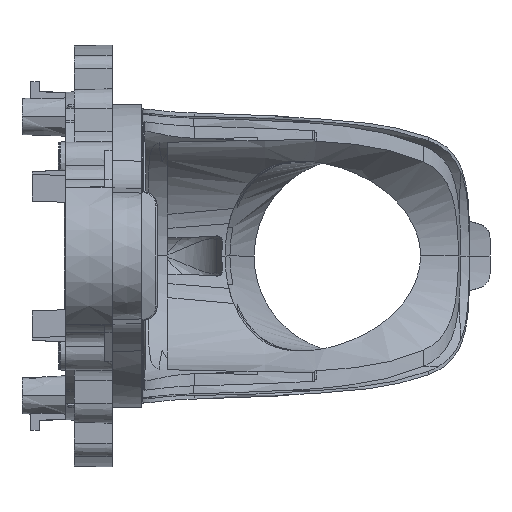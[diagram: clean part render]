
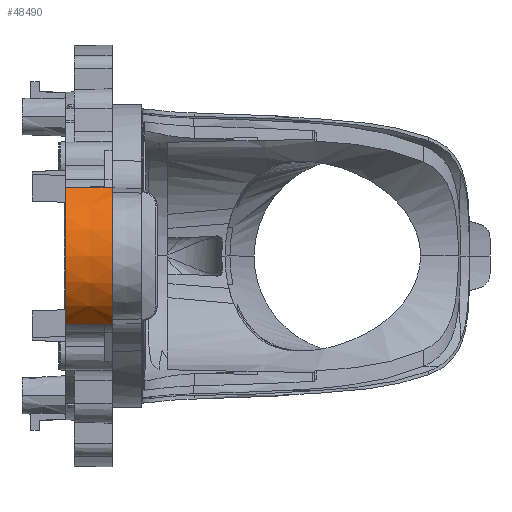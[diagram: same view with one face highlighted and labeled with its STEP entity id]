
A CAD part, front view. The second image highlights one B-rep face of the part: STEP entity #48490.
In plain terms, the highlighted conical face has half-angle 1 degrees and reference radius 28.5 mm.
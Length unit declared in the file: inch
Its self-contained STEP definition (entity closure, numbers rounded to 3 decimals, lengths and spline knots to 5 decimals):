
#1418 = CARTESIAN_POINT ( 'NONE',  ( -0.62992, -2.8937, 0. ) ) ;
#2194 = DIRECTION ( 'NONE',  ( 0., 0., -1. ) ) ;
#3478 = CARTESIAN_POINT ( 'NONE',  ( -0.41995, -3.51278, 0.927 ) ) ;
#7336 = EDGE_CURVE ( 'NONE', #73372, #30540, #14718, .T. ) ;
#8243 = DIRECTION ( 'NONE',  ( 0., 0., 1. ) ) ;
#8902 = CONICAL_SURFACE ( 'NONE', #65996, 1.12205, 0.017 ) ;
#9552 = CARTESIAN_POINT ( 'NONE',  ( 0., -2.8937, 0. ) ) ;
#10844 = VERTEX_POINT ( 'NONE', #46077 ) ;
#12508 = EDGE_CURVE ( 'NONE', #10844, #43074, #36996, .T. ) ;
#14718 = CIRCLE ( 'NONE', #58389, 1.11105 ) ;
#14889 = CARTESIAN_POINT ( 'NONE',  ( 0., -3.5177, 0.93253 ) ) ;
#19472 = CARTESIAN_POINT ( 'NONE',  ( -0.20997, -3.51524, 0.92977 ) ) ;
#19545 = CARTESIAN_POINT ( 'NONE',  ( 0., -3.5177, -0.93253 ) ) ;
#20919 = ORIENTED_EDGE ( 'NONE', *, *, #12508, .F. ) ;
#21711 = CARTESIAN_POINT ( 'NONE',  ( 0., -3.5177, -0.93253 ) ) ;
#22086 = CARTESIAN_POINT ( 'NONE',  ( -0.62992, -3.51033, -0.92423 ) ) ;
#24514 = B_SPLINE_CURVE_WITH_KNOTS ( 'NONE', 3,
 ( #49431, #3478, #19472, #14889 ),
 .UNSPECIFIED., .F., .F.,
 ( 4, 4 ),
 ( 0., 0.016 ),
 .UNSPECIFIED. ) ;
#27345 = ORIENTED_EDGE ( 'NONE', *, *, #35111, .T. ) ;
#30540 = VERTEX_POINT ( 'NONE', #64262 ) ;
#33847 = CARTESIAN_POINT ( 'NONE',  ( -0.20997, -3.51524, -0.92977 ) ) ;
#35111 = EDGE_CURVE ( 'NONE', #30540, #43074, #50305, .T. ) ;
#36996 = CIRCLE ( 'NONE', #73544, 1.12205 ) ;
#43074 = VERTEX_POINT ( 'NONE', #19545 ) ;
#43728 = DIRECTION ( 'NONE',  ( 0., 0., -1. ) ) ;
#45617 = CARTESIAN_POINT ( 'NONE',  ( -0.41995, -3.51278, -0.927 ) ) ;
#45851 = ORIENTED_EDGE ( 'NONE', *, *, #7336, .T. ) ;
#46077 = CARTESIAN_POINT ( 'NONE',  ( 0., -3.5177, 0.93253 ) ) ;
#48490 = ADVANCED_FACE ( 'NONE', ( #65671 ), #8902, .T. ) ;
#49431 = CARTESIAN_POINT ( 'NONE',  ( -0.62992, -3.51033, 0.92423 ) ) ;
#50305 = B_SPLINE_CURVE_WITH_KNOTS ( 'NONE', 3,
 ( #22086, #45617, #33847, #21711 ),
 .UNSPECIFIED., .F., .F.,
 ( 4, 4 ),
 ( 0., 0.016 ),
 .UNSPECIFIED. ) ;
#51174 = CARTESIAN_POINT ( 'NONE',  ( -0.62992, -3.51033, 0.92423 ) ) ;
#53022 = EDGE_LOOP ( 'NONE', ( #45851, #27345, #20919, #57943 ) ) ;
#54227 = DIRECTION ( 'NONE',  ( 1., 0., 0. ) ) ;
#54794 = DIRECTION ( 'NONE',  ( 1., 0., 0. ) ) ;
#57943 = ORIENTED_EDGE ( 'NONE', *, *, #74724, .F. ) ;
#58389 = AXIS2_PLACEMENT_3D ( 'NONE', #1418, #65656, #8243 ) ;
#59975 = CARTESIAN_POINT ( 'NONE',  ( 0., -2.8937, 0. ) ) ;
#64262 = CARTESIAN_POINT ( 'NONE',  ( -0.62992, -3.51033, -0.92423 ) ) ;
#65656 = DIRECTION ( 'NONE',  ( 1., 0., 0. ) ) ;
#65671 = FACE_OUTER_BOUND ( 'NONE', #53022, .T. ) ;
#65996 = AXIS2_PLACEMENT_3D ( 'NONE', #59975, #54227, #2194 ) ;
#73372 = VERTEX_POINT ( 'NONE', #51174 ) ;
#73544 = AXIS2_PLACEMENT_3D ( 'NONE', #9552, #54794, #43728 ) ;
#74724 = EDGE_CURVE ( 'NONE', #73372, #10844, #24514, .T. ) ;
